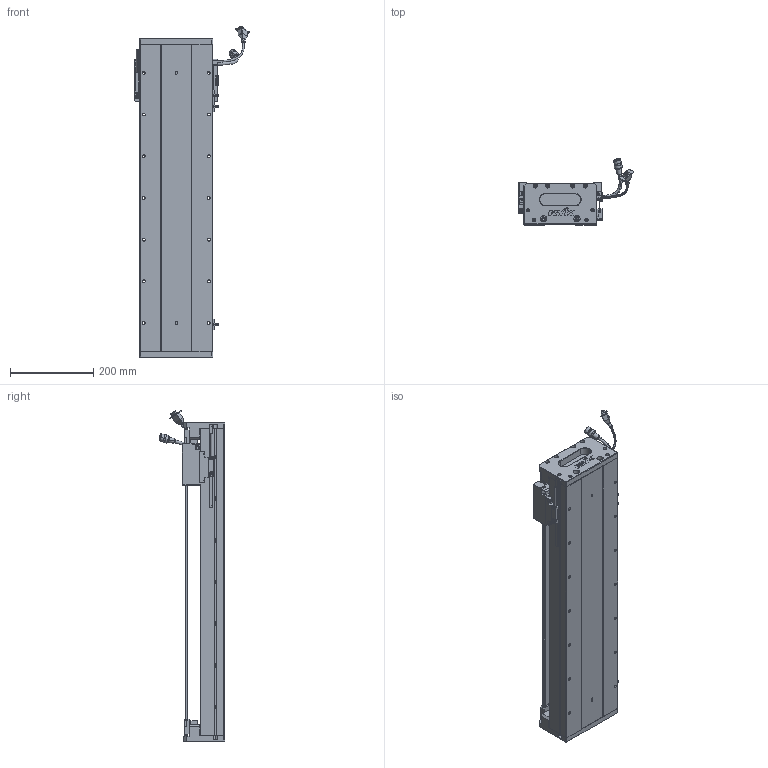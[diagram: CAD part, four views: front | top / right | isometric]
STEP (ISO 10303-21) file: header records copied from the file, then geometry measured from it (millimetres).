
FILE_DESCRIPTION (( 'STEP AP203' ), '1' );
FILE_NAME ('Z1-RY170D-1-L500-B-K.SLDASM_0550.step', '2021-05-17T08:51:40', ( '盈信电脑' ), ( '东莞市道滘镇水果街19号' ), 'SwSTEP 2.0', 'SolidWorks 2016', '' );
FILE_SCHEMA (( 'CONFIG_CONTROL_DESIGN' ));
Length unit declared in the file: millimetre
Products named in the file (36): SCREW-M1.6-1; HARNESS; RY170直线电机感应器672光电感应片; Z-RY170詩湍狟揤裔; SCALE; SCREW-M1.6-2; SCREW-M1.7; 140蚥薯蝶輸; SEAL; SCALE-Part-1; SCREW-M1.7-1; SEAL-Part-1; COVER; PSLH080_PSLF2; PBU_SHEET; COVER-Part-1; SCALE-Part-2; HOLDER0; LABEL; Z-RY170詩湍奻揤裔; LABEL-Part-1; 榋妏寠巭燃_暯_M2_2; SHIELDPLATE; HARNESS-Part-2; SCREW-M1.6; 覜茼ん672; 140雄赽晤鎢ん堤盄; SCREW-M1.6-3; Z-170詩湍傷裔啣; HARNESS-Part-1; 170-Z-臏賑輸盄裔(21遴); Z1-RY170-L500耀郪菁釱_0550; Z1-RY170D-1-L500-B-K.SLDASM_0550; Z1-RY170-L500詩湍145mm遵_0550; Z1-RY170臏賑輸(21遴); 080黍杅芛假蚾釱21遴
Assembly tree (41 placements, depth 4):
  Z1-RY170D-1-L500-B-K.SLDASM_0550
    Z1-RY170-L500耀郪菁釱_0550
    RY170直线电机感应器672光电感应片
    Z1-RY170臏賑輸(21遴)
    覜茼ん672  x3
    PSLH080_PSLF2
      SCALE
        SCALE-Part-1
        SCALE-Part-2
      HARNESS
        HARNESS-Part-1
        HARNESS-Part-2
      LABEL
        LABEL-Part-1
      COVER
        COVER-Part-1
      SEAL
        SEAL-Part-1
      榋妏寠巭燃_暯_M2_2
      SHIELDPLATE
      SCREW-M1.7
      SCREW-M1.7-1
      PBU_SHEET
      SCREW-M1.6
      SCREW-M1.6-1
      SCREW-M1.6-2
      SCREW-M1.6-3
      HOLDER0
    080黍杅芛假蚾釱21遴
    Z1-RY170-L500詩湍145mm遵_0550
    Z-170詩湍傷裔啣  x2
    Z-RY170詩湍奻揤裔  x2
    Z-RY170詩湍狟揤裔  x2
    140蚥薯蝶輸  x2
    170-Z-臏賑輸盄裔(21遴)
    140雄赽晤鎢ん堤盄
Bounding box: 275.34 x 158.11 x 793.73 mm (x, y, z)
Volume: 4539647.4 mm3; surface area: 1119446.1 mm2
Topology: 36 solids, 36 shells, 2724 faces, 7199 edges, 4539 vertices
Faces by surface type: cylinder 1182, plane 1108, cone 312, torus 69, bspline 53
Entity records: 77511 total; most frequent: CARTESIAN_POINT 19032, DIRECTION 11385, ORIENTED_EDGE 11346, EDGE_CURVE 5673, AXIS2_PLACEMENT_3D 4134, VERTEX_POINT 3657, VECTOR 3117, LINE 3117
